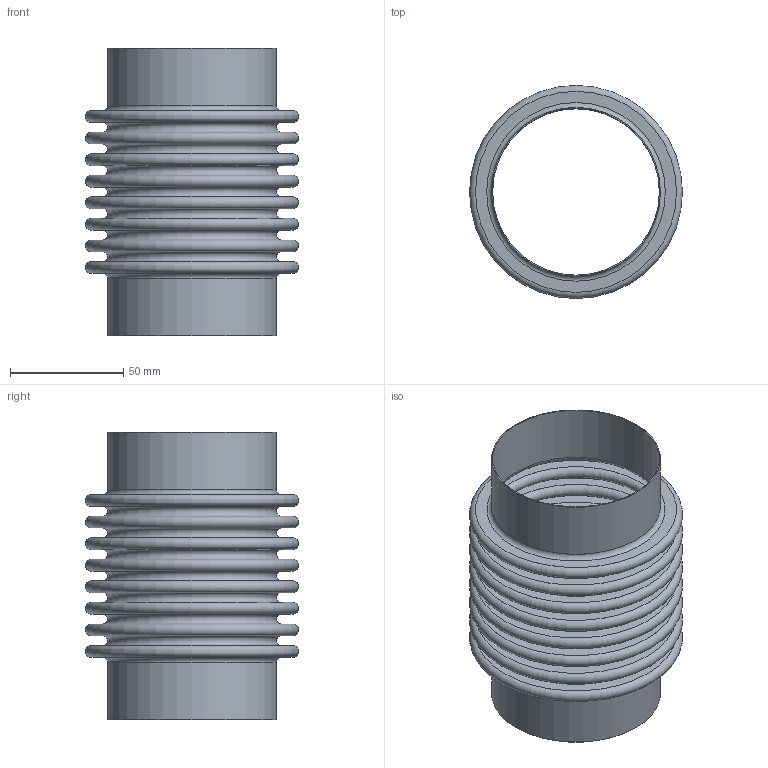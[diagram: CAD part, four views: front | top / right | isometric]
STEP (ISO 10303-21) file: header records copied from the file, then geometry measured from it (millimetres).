
FILE_DESCRIPTION(/* description */ (''),/* implementation_level */ '2;1');
FILE_NAME(/* name */ 'US-2.5-8-85S.stp',/* time_stamp */ '2026-07-21T11:01:23-05:00',/* author */ ('linda'),/* organization */ (''),/* preprocessor_version */ 'ST-DEVELOPER v20.1',/* originating_system */ 'Autodesk Inventor 2026',/* authorisation */ '');
FILE_SCHEMA (('AUTOMOTIVE_DESIGN { 1 0 10303 214 3 1 1 }'));
Length unit declared in the file: inch
Products named in the file (1): Part2
Bounding box: 93.98 x 93.98 x 127 mm (x, y, z)
Volume: 29335 mm3; surface area: 128963.4 mm2
Topology: 3 solids, 3 shells, 76 faces, 114 edges, 77 vertices
Faces by surface type: plane 38, torus 34, cylinder 4
Full cylindrical faces by diameter (mm): 73.66 x2, 74.574 x2
Entity records: 1899 total; most frequent: DIRECTION 378, CARTESIAN_POINT 268, ORIENTED_EDGE 228, AXIS2_PLACEMENT_3D 187, EDGE_LOOP 114, EDGE_CURVE 114, CIRCLE 110, STYLED_ITEM 79
